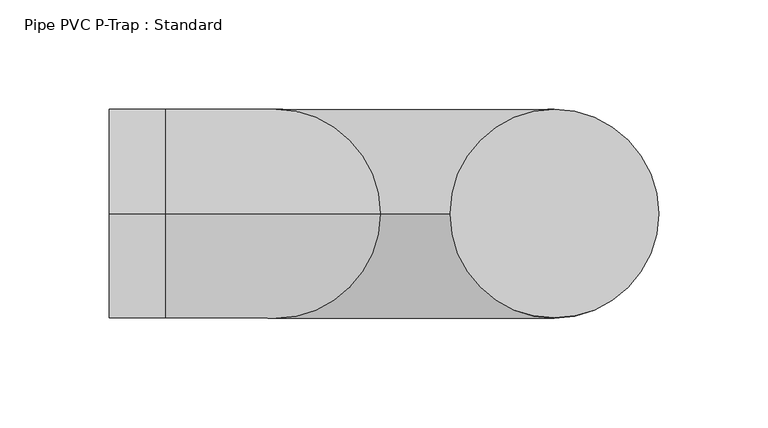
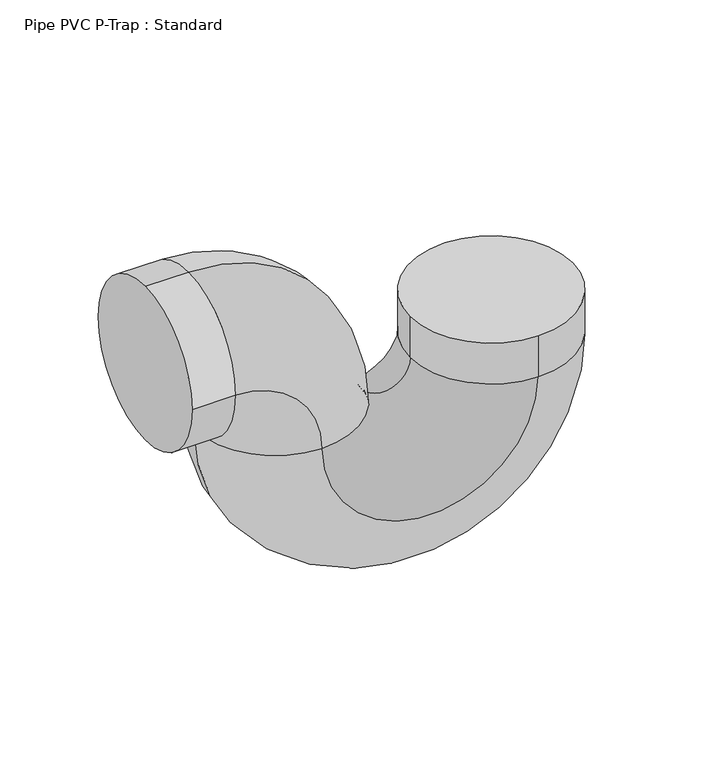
"""IFC4 building model written with IfcOpenShell, lengths in millimetres: pipe fitting geometry, Pipe PVC P-Trap : Standard."""

from ifc_helpers import new_model, si_unit, point, frame, origin, origin_2d, place, context, project, spatial, circle_curve, ellipse_curve, trimmed, segment, composite_curve, outline, extrude, source, transform, mapped, element, save
from ifc_brep_helpers import plane_surface, revolved_surface, advanced_brep


def pipe_pvc_p_trap_standard_84067bf2(model_context):
    return source(origin(), model_context, "Body", "SolidModel", [
        extrude(outline(composite_curve([segment(trimmed(circle_curve(origin_2d(), 47.625), [point((-47.625, 0.0))], [point((0.0, 47.625))], False, "CARTESIAN"), True, "CONTINUOUS"), segment(trimmed(circle_curve(origin_2d(), 47.625), [point((0.0, 47.625))], [point((47.625, 0.0))], False, "CARTESIAN"), True, "CONTINUOUS"), segment(trimmed(circle_curve(origin_2d(), 47.625), [point((47.625, 0.0))], [point((0.0, -47.625))], False, "CARTESIAN"), True, "CONTINUOUS"), segment(trimmed(circle_curve(origin_2d(), 47.625), [point((0.0, -47.625))], [point((-47.625, 0.0))], False, "CARTESIAN"), True, "CONTINUOUS")], self_intersect=False)), frame((-203.2, 0.0, 0.0), z_axis=(1.0, 0.0, 0.0), x_axis=(0.0, 1.0, 0.0)), (0.0, 0.0, 1.0), 25.4),
        extrude(outline(composite_curve([segment(trimmed(circle_curve(origin_2d(), 47.625), [point((0.0, -47.625))], [point((-47.625, 0.0))], False, "CARTESIAN"), True, "CONTINUOUS"), segment(trimmed(circle_curve(origin_2d(), 47.625), [point((-47.625, 0.0))], [point((0.0, 47.625))], False, "CARTESIAN"), True, "CONTINUOUS"), segment(trimmed(circle_curve(origin_2d(), 47.625), [point((0.0, 47.625))], [point((47.625, 0.0))], False, "CARTESIAN"), True, "CONTINUOUS"), segment(trimmed(circle_curve(origin_2d(), 47.625), [point((47.625, 0.0))], [point((0.0, -47.625))], False, "CARTESIAN"), True, "CONTINUOUS")], self_intersect=False)), frame((0.0, 0.0, -50.8), z_axis=(0.0, 0.0, 1.0), x_axis=(1.0, 0.0, 0.0)), (0.0, 0.0, 1.0), 25.4),
        advanced_brep(
        [(0.0, -47.625, -50.8), (47.625, 0.0, -50.8), (0.0, 47.625, -50.8), (-47.625, 0.0, -50.8), (-174.625, 0.0, -50.8), (-127.0, -47.625, -50.8), (-127.0, 47.625, -50.8), (-79.375, 0.0, -50.8), (-177.8, -47.625, 0.0), (-177.8, 0.0, 47.625), (-177.8, 47.625, 0.0), (-177.8, 0.0, -47.625)],
        [
            (0, 1, circle_curve(frame((0.0, 0.0, -50.8), z_axis=(0.0, 0.0, 1.0), x_axis=(1.0, 0.0, 0.0)), 47.625)),
            (1, 2, circle_curve(frame((0.0, 0.0, -50.8), z_axis=(0.0, 0.0, 1.0), x_axis=(1.0, 0.0, 0.0)), 47.625)),
            (2, 3, circle_curve(frame((0.0, 0.0, -50.8), z_axis=(0.0, 0.0, 1.0), x_axis=(1.0, 0.0, 0.0)), 47.625)),
            (3, 0, circle_curve(frame((0.0, 0.0, -50.8), z_axis=(0.0, 0.0, 1.0), x_axis=(1.0, 0.0, 0.0)), 47.625)),
            (4, 1, circle_curve(frame((-63.5, 0.0, -50.8), z_axis=(0.0, -1.0, 0.0), x_axis=(1.0, 0.0, 0.0)), 111.125)),
            (0, 5, circle_curve(frame((-63.5, -47.625, -50.8), z_axis=(0.0, 1.0, 0.0), x_axis=(1.0, 0.0, 0.0)), 63.5)),
            (5, 4, circle_curve(frame((-127.0, 0.0, -50.8), z_axis=(0.0, 0.0, -1.0), x_axis=(-1.0, 0.0, 0.0)), 47.625)),
            (6, 2, circle_curve(frame((-63.5, 47.625, -50.8), z_axis=(0.0, -1.0, 0.0), x_axis=(1.0, 0.0, 0.0)), 63.5)),
            (4, 6, circle_curve(frame((-127.0, 0.0, -50.8), z_axis=(0.0, 0.0, -1.0), x_axis=(-1.0, 0.0, 0.0)), 47.625)),
            (7, 3, circle_curve(frame((-63.5, 0.0, -50.8), z_axis=(0.0, -1.0, 0.0), x_axis=(1.0, 0.0, 0.0)), 15.875)),
            (6, 7, circle_curve(frame((-127.0, 0.0, -50.8), z_axis=(0.0, 0.0, -1.0), x_axis=(-1.0, 0.0, 0.0)), 47.625)),
            (7, 5, circle_curve(frame((-127.0, 0.0, -50.8), z_axis=(0.0, 0.0, -1.0), x_axis=(-1.0, 0.0, 0.0)), 47.625)),
            (8, 9, circle_curve(frame((-177.8, 0.0, 0.0), z_axis=(-1.0, 0.0, 0.0), x_axis=(0.0, 0.0, -1.0)), 47.625)),
            (9, 10, circle_curve(frame((-177.8, 0.0, 0.0), z_axis=(-1.0, 0.0, 0.0), x_axis=(0.0, 0.0, -1.0)), 47.625)),
            (10, 11, circle_curve(frame((-177.8, 0.0, 0.0), z_axis=(-1.0, 0.0, 0.0), x_axis=(0.0, 0.0, -1.0)), 47.625)),
            (11, 8, circle_curve(frame((-177.8, 0.0, 0.0), z_axis=(-1.0, 0.0, 0.0), x_axis=(0.0, 0.0, -1.0)), 47.625)),
            (11, 4, circle_curve(frame((-177.8, 0.0, -50.8), z_axis=(0.0, 1.0, 0.0), x_axis=(1.0, 0.0, 0.0)), 3.175)),
            (5, 8, circle_curve(frame((-177.8, -47.625, -50.8), z_axis=(0.0, -1.0, 0.0), x_axis=(1.0, 0.0, 0.0)), 50.8)),
            (10, 6, circle_curve(frame((-177.8, 47.625, -50.8), z_axis=(0.0, 1.0, 0.0), x_axis=(1.0, 0.0, 0.0)), 50.8)),
            (9, 7, circle_curve(frame((-177.8, 0.0, -50.8), z_axis=(0.0, 1.0, 0.0), x_axis=(1.0, 0.0, 0.0)), 98.425)),
        ],
        [
            plane_surface(frame((0.0, 0.0, -50.8), z_axis=(0.0, 0.0, 1.0), x_axis=(0.0, -1.0, 0.0))),
            revolved_surface(trimmed(ellipse_curve(frame((0.0, 0.0, -50.8), z_axis=(0.0, 0.0, 1.0), x_axis=(1.0, 0.0, 0.0)), 47.625, 47.625), [point((0.0, -47.625, -50.8))], [point((47.625, 0.0, -50.8))], True, "CARTESIAN"), (-63.5, 0.0, -50.8), (0.0, 1.0, 0.0)),
            revolved_surface(trimmed(ellipse_curve(frame((0.0, 0.0, -50.8), z_axis=(0.0, 0.0, 1.0), x_axis=(1.0, 0.0, 0.0)), 47.625, 47.625), [point((47.625, 0.0, -50.8))], [point((0.0, 47.625, -50.8))], True, "CARTESIAN"), (-63.5, 0.0, -50.8), (0.0, 1.0, 0.0)),
            revolved_surface(trimmed(ellipse_curve(frame((0.0, 0.0, -50.8), z_axis=(0.0, 0.0, 1.0), x_axis=(1.0, 0.0, 0.0)), 47.625, 47.625), [point((0.0, 47.625, -50.8))], [point((-47.625, 0.0, -50.8))], True, "CARTESIAN"), (-63.5, 0.0, -50.8), (0.0, 1.0, 0.0)),
            revolved_surface(trimmed(ellipse_curve(frame((0.0, 0.0, -50.8), z_axis=(0.0, 0.0, 1.0), x_axis=(1.0, 0.0, 0.0)), 47.625, 47.625), [point((-47.625, 0.0, -50.8))], [point((0.0, -47.625, -50.8))], True, "CARTESIAN"), (-63.5, 0.0, -50.8), (0.0, 1.0, 0.0)),
            plane_surface(frame((-177.8, 0.0, 0.0), z_axis=(-1.0, 0.0, 0.0), x_axis=(0.0, -1.0, 0.0))),
            revolved_surface(trimmed(ellipse_curve(frame((-127.0, 0.0, -50.8), z_axis=(0.0, 0.0, -1.0), x_axis=(-1.0, 0.0, 0.0)), 47.625, 47.625), [point((-127.0, -47.625, -50.8))], [point((-174.625, 0.0, -50.8))], True, "CARTESIAN"), (-177.8, 0.0, -50.8), (0.0, -1.0, 0.0)),
            revolved_surface(trimmed(ellipse_curve(frame((-127.0, 0.0, -50.8), z_axis=(0.0, 0.0, -1.0), x_axis=(-1.0, 0.0, 0.0)), 47.625, 47.625), [point((-174.625, 0.0, -50.8))], [point((-127.0, 47.625, -50.8))], True, "CARTESIAN"), (-177.8, 0.0, -50.8), (0.0, -1.0, 0.0)),
            revolved_surface(trimmed(ellipse_curve(frame((-127.0, 0.0, -50.8), z_axis=(0.0, 0.0, -1.0), x_axis=(-1.0, 0.0, 0.0)), 47.625, 47.625), [point((-127.0, 47.625, -50.8))], [point((-79.375, 0.0, -50.8))], True, "CARTESIAN"), (-177.8, 0.0, -50.8), (0.0, -1.0, 0.0)),
            revolved_surface(trimmed(ellipse_curve(frame((-127.0, 0.0, -50.8), z_axis=(0.0, 0.0, -1.0), x_axis=(-1.0, 0.0, 0.0)), 47.625, 47.625), [point((-79.375, 0.0, -50.8))], [point((-127.0, -47.625, -50.8))], True, "CARTESIAN"), (-177.8, 0.0, -50.8), (0.0, -1.0, 0.0)),
        ],
        [
            (0, [[1, 2, 3, 4]]),
            (1, [[5, -1, 6, 7]]),
            (2, [[8, -2, -5, 9]]),
            (3, [[10, -3, -8, 11]]),
            (4, [[-6, -4, -10, 12]]),
            (5, [[13, 14, 15, 16]]),
            (6, [[17, -7, 18, -16]]),
            (7, [[19, -9, -17, -15]]),
            (8, [[20, -11, -19, -14]]),
            (9, [[-18, -12, -20, -13]]),
        ],
    ),
    ])


if __name__ == "__main__":
    model = new_model("IFC4")
    model_context = context("Model", 3, world=origin())
    ifc_project = project(units=[si_unit("LENGTHUNIT", "METRE", prefix="MILLI")], contexts=[model_context])
    site = spatial("IfcSite", under=ifc_project)
    building = spatial("IfcBuilding", under=site)
    placement = place(None, origin())
    pipe_pvc_p_trap_standard_shape = pipe_pvc_p_trap_standard_84067bf2(model_context)
    element("IfcPipeFitting", 1, ObjectType="Pipe PVC P-Trap : Standard", at=placement, inside=building, context=model_context, shape_type="MappedRepresentation", body=[
        mapped(pipe_pvc_p_trap_standard_shape, transform((0.0, 0.0, 0.0), x_axis=(1.0, 0.0, 0.0), y_axis=(0.0, 1.0, 0.0), z_axis=(0.0, 0.0, 1.0))),
    ])
    save(model, "model.ifc")
